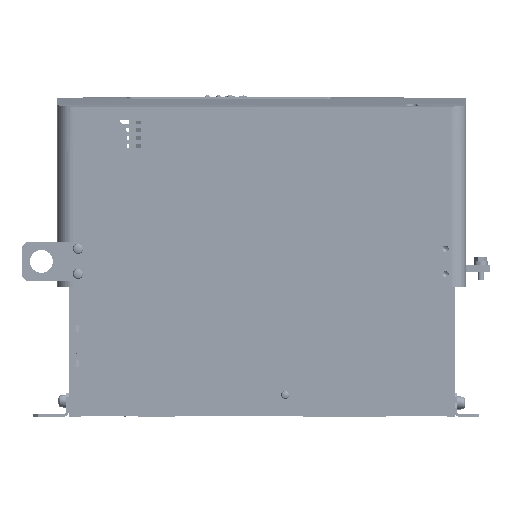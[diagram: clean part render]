
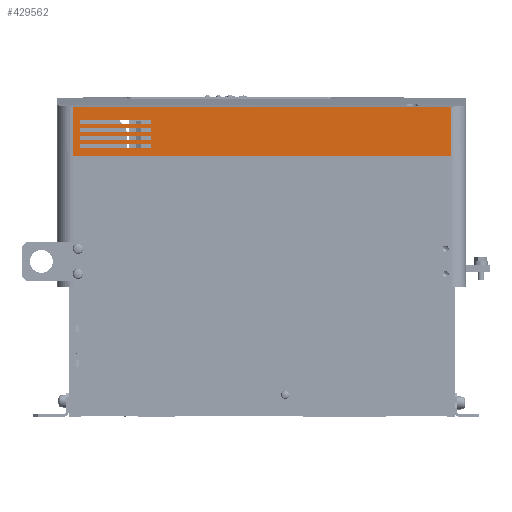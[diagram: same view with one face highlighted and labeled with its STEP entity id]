
A CAD part, left-side view. The second image highlights one B-rep face of the part: STEP entity #429562.
In plain terms, the highlighted planar face has unit normal (-1, 0, 0).
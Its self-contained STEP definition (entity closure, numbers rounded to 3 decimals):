
#419250=CARTESIAN_POINT('',(-120.,365.5,157.684));
#419286=CARTESIAN_POINT('',(-120.,34.5,157.684));
#419444=DIRECTION('',(0.,-1.,0.));
#419445=VECTOR('',#419444,331.);
#419446=CARTESIAN_POINT('',(-120.,365.5,114.5));
#419447=LINE('',#419446,#419445);
#419448=DIRECTION('',(0.,0.,-1.));
#419449=VECTOR('',#419448,43.184);
#419450=CARTESIAN_POINT('',(-120.,365.5,157.684));
#419451=LINE('',#419450,#419449);
#419452=DIRECTION('',(0.,1.,0.));
#419453=VECTOR('',#419452,331.);
#419454=CARTESIAN_POINT('',(-120.,34.5,157.684));
#419455=LINE('',#419454,#419453);
#419456=DIRECTION('',(0.,0.,-1.));
#419457=VECTOR('',#419456,43.184);
#419458=CARTESIAN_POINT('',(-120.,34.5,157.684));
#419459=LINE('',#419458,#419457);
#419460=DIRECTION('',(0.,0.,-1.));
#419461=VECTOR('',#419460,4.);
#419462=CARTESIAN_POINT('',(-120.,297.,125.));
#419463=LINE('',#419462,#419461);
#419464=DIRECTION('',(0.,1.,0.));
#419465=VECTOR('',#419464,62.);
#419466=CARTESIAN_POINT('',(-120.,297.,125.));
#419467=LINE('',#419466,#419465);
#419468=DIRECTION('',(0.,0.,-1.));
#419469=VECTOR('',#419468,4.);
#419470=CARTESIAN_POINT('',(-120.,359.,125.));
#419471=LINE('',#419470,#419469);
#419472=DIRECTION('',(0.,1.,0.));
#419473=VECTOR('',#419472,62.);
#419474=CARTESIAN_POINT('',(-120.,297.,121.));
#419475=LINE('',#419474,#419473);
#419476=DIRECTION('',(0.,0.,-1.));
#419477=VECTOR('',#419476,4.);
#419478=CARTESIAN_POINT('',(-120.,297.,132.01));
#419479=LINE('',#419478,#419477);
#419480=DIRECTION('',(0.,1.,0.));
#419481=VECTOR('',#419480,62.);
#419482=CARTESIAN_POINT('',(-120.,297.,132.01));
#419483=LINE('',#419482,#419481);
#419484=DIRECTION('',(0.,0.,-1.));
#419485=VECTOR('',#419484,4.);
#419486=CARTESIAN_POINT('',(-120.,359.,132.01));
#419487=LINE('',#419486,#419485);
#419488=DIRECTION('',(0.,1.,0.));
#419489=VECTOR('',#419488,62.);
#419490=CARTESIAN_POINT('',(-120.,297.,128.01));
#419491=LINE('',#419490,#419489);
#419492=DIRECTION('',(0.,0.,-1.));
#419493=VECTOR('',#419492,4.);
#419494=CARTESIAN_POINT('',(-120.,297.,139.019));
#419495=LINE('',#419494,#419493);
#419496=DIRECTION('',(0.,1.,0.));
#419497=VECTOR('',#419496,62.);
#419498=CARTESIAN_POINT('',(-120.,297.,139.019));
#419499=LINE('',#419498,#419497);
#419500=DIRECTION('',(0.,0.,-1.));
#419501=VECTOR('',#419500,4.);
#419502=CARTESIAN_POINT('',(-120.,359.,139.019));
#419503=LINE('',#419502,#419501);
#419504=DIRECTION('',(0.,1.,0.));
#419505=VECTOR('',#419504,62.);
#419506=CARTESIAN_POINT('',(-120.,297.,135.019));
#419507=LINE('',#419506,#419505);
#419508=DIRECTION('',(0.,0.,-1.));
#419509=VECTOR('',#419508,4.);
#419510=CARTESIAN_POINT('',(-120.,297.,146.029));
#419511=LINE('',#419510,#419509);
#419512=DIRECTION('',(0.,1.,0.));
#419513=VECTOR('',#419512,62.);
#419514=CARTESIAN_POINT('',(-120.,297.,146.029));
#419515=LINE('',#419514,#419513);
#419516=DIRECTION('',(0.,0.,-1.));
#419517=VECTOR('',#419516,4.);
#419518=CARTESIAN_POINT('',(-120.,359.,146.029));
#419519=LINE('',#419518,#419517);
#419520=DIRECTION('',(0.,1.,0.));
#419521=VECTOR('',#419520,62.);
#419522=CARTESIAN_POINT('',(-120.,297.,142.029));
#419523=LINE('',#419522,#419521);
#426310=VERTEX_POINT('',#419250);
#426315=VERTEX_POINT('',#419286);
#426319=CARTESIAN_POINT('',(-120.,34.5,114.5));
#426320=VERTEX_POINT('',#426319);
#426343=CARTESIAN_POINT('',(-120.,365.5,114.5));
#426344=VERTEX_POINT('',#426343);
#426393=CARTESIAN_POINT('',(-120.,297.,121.));
#426395=VERTEX_POINT('',#426393);
#426398=CARTESIAN_POINT('',(-120.,297.,125.));
#426400=VERTEX_POINT('',#426398);
#426401=CARTESIAN_POINT('',(-120.,359.,121.));
#426403=VERTEX_POINT('',#426401);
#426406=CARTESIAN_POINT('',(-120.,359.,125.));
#426408=VERTEX_POINT('',#426406);
#426409=CARTESIAN_POINT('',(-120.,297.,128.01));
#426411=VERTEX_POINT('',#426409);
#426414=CARTESIAN_POINT('',(-120.,297.,132.01));
#426416=VERTEX_POINT('',#426414);
#426417=CARTESIAN_POINT('',(-120.,359.,128.01));
#426419=VERTEX_POINT('',#426417);
#426422=CARTESIAN_POINT('',(-120.,359.,132.01));
#426424=VERTEX_POINT('',#426422);
#426425=CARTESIAN_POINT('',(-120.,297.,135.019));
#426427=VERTEX_POINT('',#426425);
#426430=CARTESIAN_POINT('',(-120.,297.,139.019));
#426432=VERTEX_POINT('',#426430);
#426433=CARTESIAN_POINT('',(-120.,359.,135.019));
#426435=VERTEX_POINT('',#426433);
#426438=CARTESIAN_POINT('',(-120.,359.,139.019));
#426440=VERTEX_POINT('',#426438);
#426441=CARTESIAN_POINT('',(-120.,297.,142.029));
#426443=VERTEX_POINT('',#426441);
#426446=CARTESIAN_POINT('',(-120.,297.,146.029));
#426448=VERTEX_POINT('',#426446);
#426449=CARTESIAN_POINT('',(-120.,359.,142.029));
#426451=VERTEX_POINT('',#426449);
#426454=CARTESIAN_POINT('',(-120.,359.,146.029));
#426456=VERTEX_POINT('',#426454);
#429510=CARTESIAN_POINT('',(-120.,379.,166.));
#429511=DIRECTION('',(-1.,0.,0.));
#429512=DIRECTION('',(0.,-1.,0.));
#429513=AXIS2_PLACEMENT_3D('',#429510,#429511,#429512);
#429514=PLANE('',#429513);
#429515=ORIENTED_EDGE('',*,*,#427310,.F.);
#429516=ORIENTED_EDGE('',*,*,#429459,.F.);
#429517=ORIENTED_EDGE('',*,*,#429384,.F.);
#429519=ORIENTED_EDGE('',*,*,#429518,.T.);
#429520=EDGE_LOOP('',(#429515,#429516,#429517,#429519));
#429521=FACE_OUTER_BOUND('',#429520,.F.);
#429523=ORIENTED_EDGE('',*,*,#429522,.F.);
#429525=ORIENTED_EDGE('',*,*,#429524,.T.);
#429527=ORIENTED_EDGE('',*,*,#429526,.T.);
#429529=ORIENTED_EDGE('',*,*,#429528,.F.);
#429530=EDGE_LOOP('',(#429523,#429525,#429527,#429529));
#429531=FACE_BOUND('',#429530,.F.);
#429533=ORIENTED_EDGE('',*,*,#429532,.F.);
#429535=ORIENTED_EDGE('',*,*,#429534,.T.);
#429537=ORIENTED_EDGE('',*,*,#429536,.T.);
#429539=ORIENTED_EDGE('',*,*,#429538,.F.);
#429540=EDGE_LOOP('',(#429533,#429535,#429537,#429539));
#429541=FACE_BOUND('',#429540,.F.);
#429543=ORIENTED_EDGE('',*,*,#429542,.F.);
#429545=ORIENTED_EDGE('',*,*,#429544,.T.);
#429547=ORIENTED_EDGE('',*,*,#429546,.T.);
#429549=ORIENTED_EDGE('',*,*,#429548,.F.);
#429550=EDGE_LOOP('',(#429543,#429545,#429547,#429549));
#429551=FACE_BOUND('',#429550,.F.);
#429553=ORIENTED_EDGE('',*,*,#429552,.F.);
#429555=ORIENTED_EDGE('',*,*,#429554,.T.);
#429557=ORIENTED_EDGE('',*,*,#429556,.T.);
#429559=ORIENTED_EDGE('',*,*,#429558,.F.);
#429560=EDGE_LOOP('',(#429553,#429555,#429557,#429559));
#429561=FACE_BOUND('',#429560,.F.);
#427310=EDGE_CURVE('',#426344,#426320,#419447,.T.);
#429384=EDGE_CURVE('',#426315,#426310,#419455,.T.);
#429459=EDGE_CURVE('',#426310,#426344,#419451,.T.);
#429518=EDGE_CURVE('',#426315,#426320,#419459,.T.);
#429522=EDGE_CURVE('',#426400,#426395,#419463,.T.);
#429524=EDGE_CURVE('',#426400,#426408,#419467,.T.);
#429526=EDGE_CURVE('',#426408,#426403,#419471,.T.);
#429528=EDGE_CURVE('',#426395,#426403,#419475,.T.);
#429532=EDGE_CURVE('',#426416,#426411,#419479,.T.);
#429534=EDGE_CURVE('',#426416,#426424,#419483,.T.);
#429536=EDGE_CURVE('',#426424,#426419,#419487,.T.);
#429538=EDGE_CURVE('',#426411,#426419,#419491,.T.);
#429542=EDGE_CURVE('',#426432,#426427,#419495,.T.);
#429544=EDGE_CURVE('',#426432,#426440,#419499,.T.);
#429546=EDGE_CURVE('',#426440,#426435,#419503,.T.);
#429548=EDGE_CURVE('',#426427,#426435,#419507,.T.);
#429552=EDGE_CURVE('',#426448,#426443,#419511,.T.);
#429554=EDGE_CURVE('',#426448,#426456,#419515,.T.);
#429556=EDGE_CURVE('',#426456,#426451,#419519,.T.);
#429558=EDGE_CURVE('',#426443,#426451,#419523,.T.);
#429562=ADVANCED_FACE('',(#429521,#429531,#429541,#429551,#429561),#429514,.T.);
